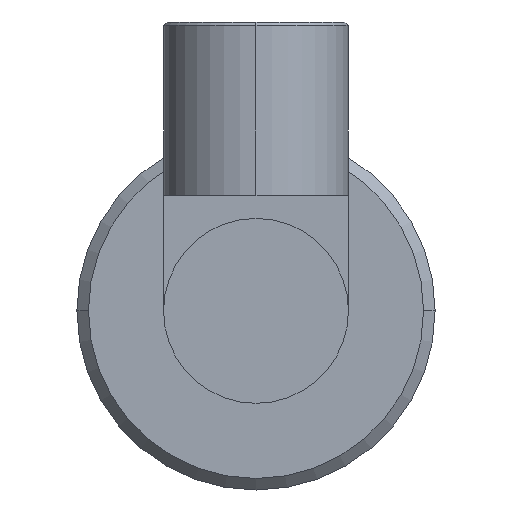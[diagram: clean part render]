
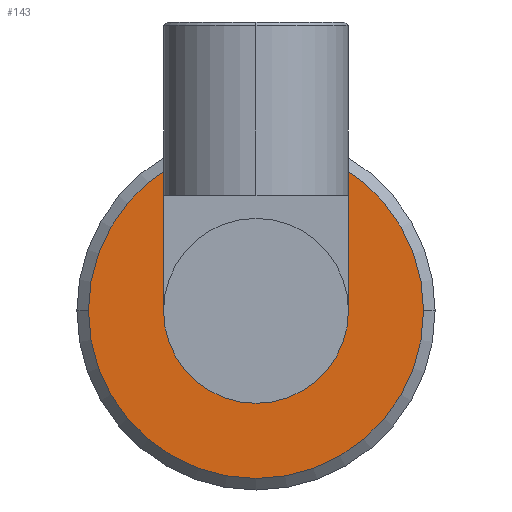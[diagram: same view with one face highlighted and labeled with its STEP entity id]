
A CAD part, left-side view. The second image highlights one B-rep face of the part: STEP entity #143.
In plain terms, the highlighted planar face has unit normal (-1, 0, 0).
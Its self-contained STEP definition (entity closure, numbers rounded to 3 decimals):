
#32 = DIRECTION ( 'NONE',  ( 0., -1., 0. ) ) ;
#51 = VERTEX_POINT ( 'NONE', #625 ) ;
#54 = CIRCLE ( 'NONE', #62, 14.5 ) ;
#62 = AXIS2_PLACEMENT_3D ( 'NONE', #515, #72, #622 ) ;
#72 = DIRECTION ( 'NONE',  ( 1., 0., 0. ) ) ;
#76 = AXIS2_PLACEMENT_3D ( 'NONE', #789, #410, #478 ) ;
#90 = ORIENTED_EDGE ( 'NONE', *, *, #155, .F. ) ;
#110 = CIRCLE ( 'NONE', #548, 8. ) ;
#118 = EDGE_CURVE ( 'NONE', #541, #898, #110, .T. ) ;
#143 = ADVANCED_FACE ( 'NONE', ( #764, #312 ), #440, .T. ) ;
#155 = EDGE_CURVE ( 'NONE', #400, #51, #54, .T. ) ;
#196 = DIRECTION ( 'NONE',  ( -1., 0., 0. ) ) ;
#202 = ORIENTED_EDGE ( 'NONE', *, *, #981, .T. ) ;
#213 = EDGE_CURVE ( 'NONE', #51, #400, #255, .T. ) ;
#241 = EDGE_LOOP ( 'NONE', ( #90, #709 ) ) ;
#255 = CIRCLE ( 'NONE', #76, 14.5 ) ;
#300 = DIRECTION ( 'NONE',  ( 0., 1., 0. ) ) ;
#312 = FACE_OUTER_BOUND ( 'NONE', #241, .T. ) ;
#338 = CARTESIAN_POINT ( 'NONE',  ( -24.026, 0., 0. ) ) ;
#383 = EDGE_LOOP ( 'NONE', ( #202, #921 ) ) ;
#400 = VERTEX_POINT ( 'NONE', #578 ) ;
#410 = DIRECTION ( 'NONE',  ( 1., 0., 0. ) ) ;
#440 = PLANE ( 'NONE',  #1027 ) ;
#445 = DIRECTION ( 'NONE',  ( 0., 1., 0. ) ) ;
#478 = DIRECTION ( 'NONE',  ( 0., 1., 0. ) ) ;
#496 = CIRCLE ( 'NONE', #1012, 8. ) ;
#515 = CARTESIAN_POINT ( 'NONE',  ( -24.026, 0., 0. ) ) ;
#541 = VERTEX_POINT ( 'NONE', #761 ) ;
#548 = AXIS2_PLACEMENT_3D ( 'NONE', #900, #984, #445 ) ;
#563 = CARTESIAN_POINT ( 'NONE',  ( -24.026, 8., 0. ) ) ;
#578 = CARTESIAN_POINT ( 'NONE',  ( -24.026, 14.5, 0. ) ) ;
#622 = DIRECTION ( 'NONE',  ( 0., 1., 0. ) ) ;
#625 = CARTESIAN_POINT ( 'NONE',  ( -24.026, -14.5, 0. ) ) ;
#652 = DIRECTION ( 'NONE',  ( 1., 0., 0. ) ) ;
#709 = ORIENTED_EDGE ( 'NONE', *, *, #213, .F. ) ;
#761 = CARTESIAN_POINT ( 'NONE',  ( -24.026, -8., 0. ) ) ;
#764 = FACE_BOUND ( 'NONE', #383, .T. ) ;
#789 = CARTESIAN_POINT ( 'NONE',  ( -24.026, 0., 0. ) ) ;
#898 = VERTEX_POINT ( 'NONE', #563 ) ;
#900 = CARTESIAN_POINT ( 'NONE',  ( -24.026, 0., 0. ) ) ;
#921 = ORIENTED_EDGE ( 'NONE', *, *, #118, .T. ) ;
#981 = EDGE_CURVE ( 'NONE', #898, #541, #496, .T. ) ;
#984 = DIRECTION ( 'NONE',  ( 1., 0., 0. ) ) ;
#989 = CARTESIAN_POINT ( 'NONE',  ( -24.026, 14.5, 0. ) ) ;
#1012 = AXIS2_PLACEMENT_3D ( 'NONE', #338, #652, #300 ) ;
#1027 = AXIS2_PLACEMENT_3D ( 'NONE', #989, #196, #32 ) ;
